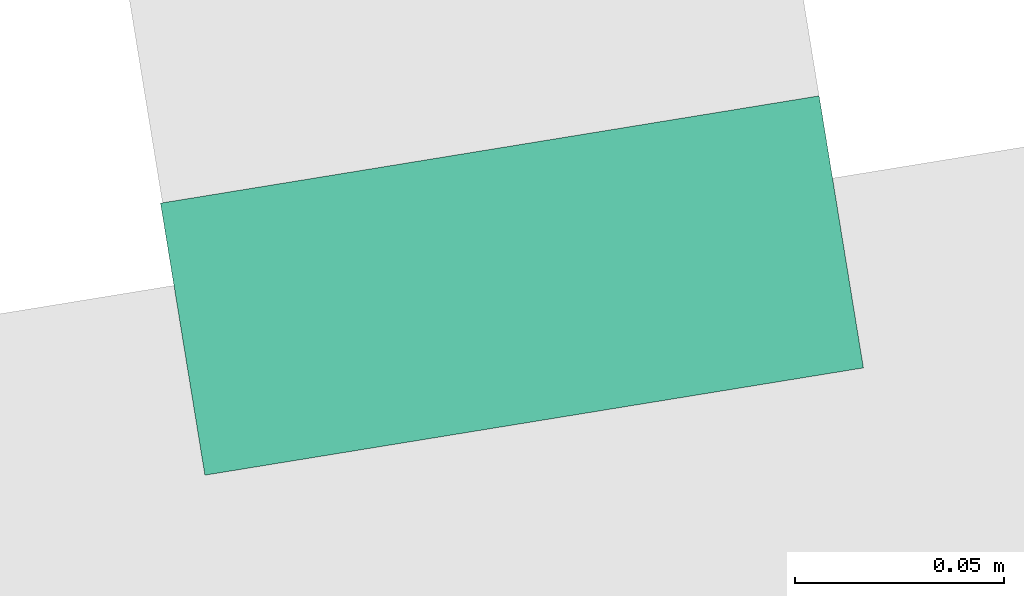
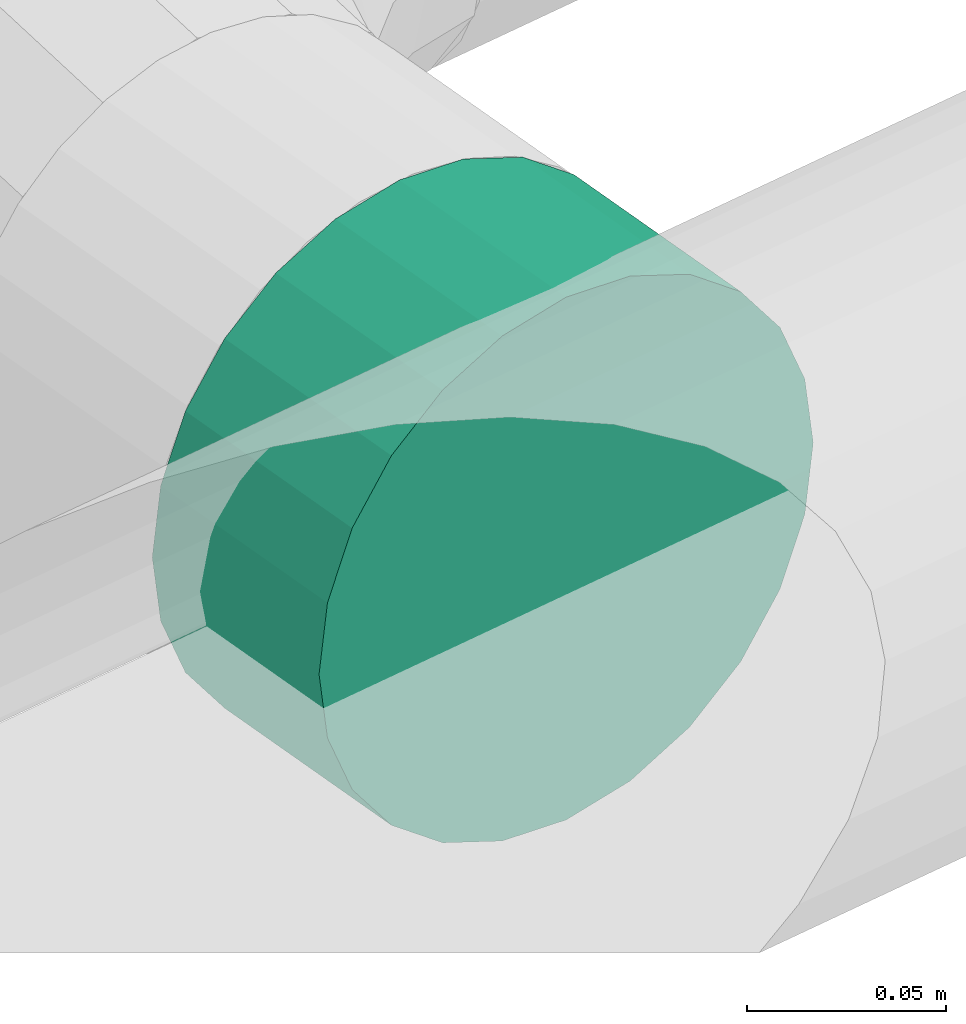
# One storey, part 17 of 19: 1 flow fitting.
"""IFC2X3 building model written with IfcOpenShell, lengths in millimetres."""

import ifcopenshell
import ifcopenshell.guid

model = None  # the IFC model being written
_history = None  # IfcOwnerHistory: only IFC2X3 demands one
_inside = {}  # id of a spatial element -> (the spatial element, [elements in it])
_under = {}  # id of a project, library or spatial element -> (it, [spatial elements below it])
_declared = {}  # id of a project -> (the project, [libraries it declares])
_typed = {}  # id of a type object -> (the type object, [elements of that type])
_made_of = {}  # id of a material, layer set ... -> (it, [elements and type objects made of it])


def new_model(schema):
    """Start an empty IFC model of exactly this schema.

    Asked for "IFC4X3", IfcOpenShell would pick the latest addendum, in which some entities
    have other attributes; the version numbers below select the first issue.
    IFC2X3 requires an IfcOwnerHistory on every rooted entity: one is made here for all.
    """
    global model, _history
    if schema == "IFC4X3":
        model = ifcopenshell.file(schema_version=(4, 3, 0, 0))
    else:
        model = ifcopenshell.file(schema=schema)
    _inside.clear()
    _under.clear()
    _declared.clear()
    _typed.clear()
    _made_of.clear()
    _history = None
    if model.schema == "IFC2X3":
        org = make("IfcOrganization", Name="unknown")
        user = make(
            "IfcPersonAndOrganization",
            ThePerson=make("IfcPerson", FamilyName="unknown"),
            TheOrganization=org,
        )
        app = make(
            "IfcApplication",
            ApplicationDeveloper=org,
            Version="unknown",
            ApplicationFullName="unknown",
            ApplicationIdentifier="unknown",
        )
        _history = make(
            "IfcOwnerHistory",
            OwningUser=user,
            OwningApplication=app,
            ChangeAction="ADDED",
            CreationDate=0,
        )
    return model


def make(cls, **values):
    """One entity of the class cls with the attributes given. An attribute that is None is left unset."""
    return model.create_entity(
        cls, **{name: value for name, value in values.items() if value is not None}
    )


def entity(cls, *values):
    """Any entity or typed value of the class cls, its attributes in the order of the schema. None: left unset."""
    e = model.create_entity(cls)
    for i, value in enumerate(values):
        if value is not None:
            e[i] = value
    return e


def rooted(cls, **values):
    """An entity with a GlobalId (a new one), such as an element, a storey or a relation."""
    return make(cls, GlobalId=ifcopenshell.guid.new(), OwnerHistory=_history, **values)


def si_unit(unit_type, name, prefix=None):
    """IfcSIUnit, for example si_unit("LENGTHUNIT", "METRE", prefix="MILLI")."""
    return make("IfcSIUnit", UnitType=unit_type, Prefix=prefix, Name=name)


def converted_unit(unit_type, name, factor, base, dimensions=None, offset=None):
    """IfcConversionBasedUnit, such as the inch: factor (a typed value) times the base unit."""
    return make(
        "IfcConversionBasedUnit"
        if offset is None
        else "IfcConversionBasedUnitWithOffset",
        ConversionOffset=offset,
        Dimensions=None
        if dimensions is None
        else entity("IfcDimensionalExponents", *dimensions),
        UnitType=unit_type,
        Name=name,
        ConversionFactor=make(
            "IfcMeasureWithUnit", ValueComponent=factor, UnitComponent=base
        ),
    )


def derived_unit(unit_type, elements):
    """IfcDerivedUnit: a product of units, each with its exponent."""
    return make(
        "IfcDerivedUnit",
        Elements=[
            make("IfcDerivedUnitElement", Unit=unit, Exponent=power)
            for unit, power in elements
        ],
        UnitType=unit_type,
    )


def assignment(units):
    """IfcUnitAssignment: the units of a project."""
    return None if units is None else make("IfcUnitAssignment", Units=units)


def point(xyz):
    """IfcCartesianPoint."""
    return None if xyz is None else make("IfcCartesianPoint", Coordinates=xyz)


def direction(xyz):
    """IfcDirection."""
    return None if xyz is None else make("IfcDirection", DirectionRatios=xyz)


def frame(location, z_axis=None, x_axis=None):
    """IfcAxis2Placement3D, a coordinate frame: its origin and axes. An axis left out is left unset."""
    return make(
        "IfcAxis2Placement3D",
        Location=point(location),
        Axis=direction(z_axis),
        RefDirection=direction(x_axis),
    )


def origin():
    """The frame at (0, 0, 0) with its axes left unset."""
    return frame((0.0, 0.0, 0.0))


def origin_with_axes():
    """The frame at (0, 0, 0) with the z axis (0, 0, 1) and the x axis (1, 0, 0) written out."""
    return frame((0.0, 0.0, 0.0), z_axis=(0.0, 0.0, 1.0), x_axis=(1.0, 0.0, 0.0))


def place(relative_to, where):
    """IfcLocalPlacement: puts the frame where relative to a parent placement (None: the world)."""
    return make(
        "IfcLocalPlacement", PlacementRelTo=relative_to, RelativePlacement=where
    )


def context(
    kind, dimensions, precision=None, world=None, true_north=None, identifier=None
):
    """IfcGeometricRepresentationContext, for example the 3D "Model" context."""
    return make(
        "IfcGeometricRepresentationContext",
        ContextIdentifier=identifier,
        ContextType=kind,
        CoordinateSpaceDimension=dimensions,
        Precision=precision,
        WorldCoordinateSystem=world,
        TrueNorth=true_north,
    )


def subcontext(parent, identifier, kind, view, scale=None):
    """IfcGeometricRepresentationSubContext, for example "Body" below "Model"."""
    return make(
        "IfcGeometricRepresentationSubContext",
        ContextIdentifier=identifier,
        ContextType=kind,
        ParentContext=parent,
        TargetScale=scale,
        TargetView=view,
    )


def project(units=None, contexts=None):
    """IfcProject with its units and contexts."""
    return rooted(
        "IfcProject",
        Name="project",
        RepresentationContexts=contexts,
        UnitsInContext=assignment(units),
    )


def spatial(cls, under=None, at=None, **own):
    """A site, building, storey or space (cls), placed at a placement, below another one or the project."""
    s = rooted(cls, ObjectPlacement=at, **own)
    if under is not None:
        _under.setdefault(under.id(), (under, []))[1].append(s)
    return s


def faces_of(points, faces, orient=None, outer=None):
    """IfcFace entities. A face is a list of loops; a loop is a list of indices into points, from 0.

    orient and outer hold one flag for each loop. By default every Orientation is true, the
    first loop of a face is its IfcFaceOuterBound and the others are IfcFaceBound.
    """
    made = []
    for i, loops in enumerate(faces):
        bounds = []
        for j, loop in enumerate(loops):
            is_outer = j == 0 if outer is None else outer[i][j]
            bounds.append(
                make(
                    "IfcFaceOuterBound" if is_outer else "IfcFaceBound",
                    Bound=make("IfcPolyLoop", Polygon=[points[k] for k in loop]),
                    Orientation=True if orient is None else orient[i][j],
                )
            )
        made.append(make("IfcFace", Bounds=bounds))
    return made


def faceted_brep(points, faces, orient=None, outer=None, voids=None):
    """IfcFacetedBrep: a solid bounded by flat faces; with voids (closed shells), ...WithVoids."""
    shared = [point(p) for p in points]
    hull = make("IfcClosedShell", CfsFaces=faces_of(shared, faces, orient, outer))
    if voids is None:
        return make("IfcFacetedBrep", Outer=hull)
    return make(
        "IfcFacetedBrepWithVoids",
        Outer=hull,
        Voids=[
            make(cls, CfsFaces=faces_of(shared, fs, o, b)) for cls, fs, o, b in voids
        ],
    )


def shape(context_of_items, identifier, shape_type, items):
    """IfcShapeRepresentation: the items that make up one representation, for example the "Body"."""
    return make(
        "IfcShapeRepresentation",
        ContextOfItems=context_of_items,
        RepresentationIdentifier=identifier,
        RepresentationType=shape_type,
        Items=items,
    )


def source(mapping_origin, context_of_items, identifier, shape_type, items):
    """IfcRepresentationMap: a shape defined once, which mapped items show again and again."""
    return make(
        "IfcRepresentationMap",
        MappingOrigin=mapping_origin,
        MappedRepresentation=shape(context_of_items, identifier, shape_type, items),
    )


def transform(
    local_origin,
    x_axis=None,
    y_axis=None,
    z_axis=None,
    scale=None,
    scale2=None,
    scale3=None,
    uniform=True,
):
    """IfcCartesianTransformationOperator3D, or its non-uniform kind. x_axis, y_axis, z_axis: its Axis1, 2, 3."""
    if uniform:
        return make(
            "IfcCartesianTransformationOperator3D",
            Axis1=direction(x_axis),
            Axis2=direction(y_axis),
            LocalOrigin=point(local_origin),
            Scale=scale,
            Axis3=direction(z_axis),
        )
    return make(
        "IfcCartesianTransformationOperator3DnonUniform",
        Axis1=direction(x_axis),
        Axis2=direction(y_axis),
        LocalOrigin=point(local_origin),
        Scale=scale,
        Axis3=direction(z_axis),
        Scale2=scale2,
        Scale3=scale3,
    )


def mapped(mapping_source, mapping_target):
    """IfcMappedItem: shows the shape of a source again, moved by a transform."""
    return make(
        "IfcMappedItem", MappingSource=mapping_source, MappingTarget=mapping_target
    )


def material(Name=None, Category=None):
    """IfcMaterial."""
    return make("IfcMaterial", Name=Name, Category=Category)


def made_of(thing, what):
    """Note that an element or type object is made of a material, layer set ...; save() writes the relation."""
    if what is not None:
        _made_of.setdefault(what.id(), (what, []))[1].append(thing)
    return thing


def type_object(cls, material=None, **own):
    """A type object (cls), such as IfcWallType, which elements share."""
    return made_of(rooted(cls, **own), material)


def element(
    cls,
    number,
    at=None,
    inside=None,
    cuts=None,
    type_object=None,
    material=None,
    context=None,
    identifier="Body",
    shape_type=None,
    held_by="IfcProductDefinitionShape",
    body=None,
    shapes=None,
    **own,
):
    """One element of the class cls, such as IfcWall. Its Tag is "e" and its number.

    at: its placement. inside: the storey or other place that contains it. cuts: it is an
    opening in that element (IfcRelVoidsElement). A single representation is given by context,
    identifier, shape_type and body (its items); several are given by shapes. held_by: the class
    of the entity that holds the representations. save() writes the other relations.
    """
    e = rooted(cls, Tag="e%d" % number, ObjectPlacement=at, **own)
    if body is not None:
        shapes = [shape(context, identifier, shape_type, body)]
    if shapes is not None:
        e.Representation = make(held_by, Representations=shapes)
    if inside is not None:
        _inside.setdefault(inside.id(), (inside, []))[1].append(e)
    if cuts is not None:
        rooted(
            "IfcRelVoidsElement", RelatingBuildingElement=cuts, RelatedOpeningElement=e
        )
    if type_object is not None:
        _typed.setdefault(type_object.id(), (type_object, []))[1].append(e)
    return made_of(e, material)


def aggregate(whole, parts):
    """IfcRelAggregates: a whole, such as a stair, and the parts it consists of."""
    return rooted("IfcRelAggregates", RelatingObject=whole, RelatedObjects=parts)


def save(model, path):
    """Write the relations noted so far, then the file.

    IfcRelAggregates (storeys below a building ...), IfcRelContainedInSpatialStructure (elements
    in a storey), IfcRelDefinesByType, IfcRelAssociatesMaterial and IfcRelDeclares: one each for
    every whole, place, type object, material and project.
    """
    for whole, parts in _under.values():
        aggregate(whole, parts)
    for where, things in _inside.values():
        rooted(
            "IfcRelContainedInSpatialStructure",
            RelatedElements=things,
            RelatingStructure=where,
        )
    for kind, things in _typed.values():
        rooted("IfcRelDefinesByType", RelatedObjects=things, RelatingType=kind)
    for what, things in _made_of.values():
        rooted("IfcRelAssociatesMaterial", RelatedObjects=things, RelatingMaterial=what)
    for by, libraries in _declared.values():
        rooted("IfcRelDeclares", RelatingContext=by, RelatedDefinitions=libraries)
    model.write(path)


model = new_model("IFC2X3")

# Units and contexts
model_context = context("Model", 3, precision=0.01, world=origin(), true_north=direction((6.12323399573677e-17, 1.0)))
plan_context = context("Plan", 3, precision=1e-05, world=origin_with_axes())
body_context = subcontext(model_context, "Body", "Model", "MODEL_VIEW")
ifc_project = project(units=[converted_unit("PLANEANGLEUNIT", "DEGREE", entity("IfcPositiveLengthMeasure", 0.0174532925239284), si_unit("PLANEANGLEUNIT", "RADIAN"), dimensions=[0, 0, 0, 0, 0, 0, 0]), si_unit("AREAUNIT", "SQUARE_METRE"), si_unit("LENGTHUNIT", "METRE", prefix="MILLI"), si_unit("MASSUNIT", "GRAM", prefix="KILO"), si_unit("POWERUNIT", "WATT"), si_unit("PRESSUREUNIT", "PASCAL", prefix="KILO"), si_unit("FORCEUNIT", "NEWTON", prefix="KILO"), si_unit("ELECTRICVOLTAGEUNIT", "VOLT"), si_unit("ELECTRICCURRENTUNIT", "AMPERE"), si_unit("THERMODYNAMICTEMPERATUREUNIT", "DEGREE_CELSIUS"), si_unit("TIMEUNIT", "SECOND"), si_unit("VOLUMEUNIT", "CUBIC_METRE"), derived_unit("LINEARVELOCITYUNIT", [(si_unit("LENGTHUNIT", "METRE"), 1), (si_unit("TIMEUNIT", "SECOND"), -1)]), derived_unit("VOLUMETRICFLOWRATEUNIT", [(si_unit("VOLUMEUNIT", "CUBIC_METRE"), 1), (si_unit("TIMEUNIT", "SECOND"), -1)]), derived_unit("THERMALTRANSMITTANCEUNIT", [(si_unit("POWERUNIT", "WATT"), 1), (si_unit("THERMODYNAMICTEMPERATUREUNIT", "KELVIN"), -1), (si_unit("AREAUNIT", "SQUARE_METRE"), -1)]), derived_unit("SOUNDPRESSUREUNIT", [(si_unit("PRESSUREUNIT", "PASCAL"), 1)])], contexts=[model_context, plan_context])

# Site, building, storey
site_placement = place(None, frame((5.09380697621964e-08, 5.80416781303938e-08, 0.0), z_axis=(0.0, 0.0, 1.0), x_axis=(-0.160806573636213, 0.986985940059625, 0.0)))
site = spatial("IfcSite", under=ifc_project, at=site_placement, Name="Default", CompositionType="ELEMENT")
building_placement = place(site_placement, frame((0.0, 0.0, 0.0), z_axis=(0.0, 0.0, 1.0), x_axis=(1.0, -2.77555756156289e-17, 0.0)))
building = spatial("IfcBuilding", under=site, at=building_placement, Name="Bygning (endres i Project Information)", CompositionType="ELEMENT")
storey_placement = place(building_placement, frame((0.0, 0.0, 51360.0000000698), z_axis=(0.0, 0.0, 1.0), x_axis=(1.0, -2.77555756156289e-17, 0.0)))
storey = spatial("IfcBuildingStorey", under=building, at=storey_placement, Name="H01-Nivå D+0,36", CompositionType="ELEMENT", Elevation=51360.0000000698)

# Flow fitting
ifc_material = material(Name="3601.001 Avtrekk")
duct_fitting_type = type_object("IfcDuctFittingType", Name="magicirc_tapoutlet_001:magicirc_tapoutlet_001", PredefinedType="NOTDEFINED", material=ifc_material)
shared_shape = source(origin(), body_context, "Body", "Brep", [
    faceted_brep([(-46.0960000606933, 0.0, -80.0000001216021), (-46.0960000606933, -20.7055236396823, -77.2740662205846), (-46.0960000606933, -40.0000000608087, -69.2820324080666), (-46.0960000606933, -56.5685425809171, -56.568542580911), (-46.0960000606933, -69.2820324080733, -40.0000000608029), (-46.0960000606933, -77.2740662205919, -20.7055236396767), (-46.0960000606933, -80.0000001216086, 0.0), (-46.0960000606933, -77.2740662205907, 20.7055236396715), (-46.0960000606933, -69.2820324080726, 40.0000000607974), (-46.0960000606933, -56.5685425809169, 56.5685425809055), (-46.0960000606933, -40.000000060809, 69.2820324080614), (-46.0960000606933, -20.7055236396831, 77.2740662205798), (-46.0960000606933, 0.0, 80.0000001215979), (-46.0960000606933, 20.705523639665, 77.27406622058), (-46.0960000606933, 40.0000000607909, 69.2820324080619), (-46.0960000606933, 56.5685425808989, 56.5685425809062), (-46.0960000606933, 69.2820324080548, 40.0000000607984), (-46.0960000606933, 77.2740662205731, 20.7055236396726), (-46.0960000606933, 80.0000001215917, 0.0), (-46.0960000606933, 77.2740662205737, -20.7055236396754), (-46.0960000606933, 69.2820324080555, -40.0000000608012), (-46.0960000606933, 56.5685425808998, -56.5685425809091), (-46.0960000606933, 40.0000000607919, -69.2820324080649), (-46.0960000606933, 20.705523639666, -77.2740662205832), (0.0, 0.0, 80.0000001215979), (20.0, 0.0, 80.0000001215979), (20.0, 20.705523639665, 77.27406622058), (0.0, 20.7055236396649, 77.2740662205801), (20.0, 40.0000000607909, 69.2820324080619), (0.0, 40.0000000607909, 69.2820324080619), (20.0, 56.5685425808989, 56.5685425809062), (0.0, 56.5685425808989, 56.5685425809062), (0.0, 69.2820324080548, 40.0000000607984), (20.0, 69.2820324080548, 40.0000000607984), (20.0, 77.2740662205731, 20.7055236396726), (0.0, 77.2740662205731, 20.7055236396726), (20.0, 80.0000001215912, 0.0), (0.0, 80.0000001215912, 0.0), (20.0, 77.2740662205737, -20.7055236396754), (0.0, 77.2740662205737, -20.7055236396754), (20.0, 69.2820324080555, -40.0000000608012), (0.0, 69.2820324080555, -40.0000000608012), (20.0, 56.5685425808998, -56.5685425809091), (0.0, 56.5685425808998, -56.5685425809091), (0.0, 40.0000000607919, -69.2820324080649), (20.0, 40.0000000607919, -69.2820324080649), (20.0, 20.705523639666, -77.2740662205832), (0.0, 20.705523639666, -77.2740662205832), (20.0, 0.0, -80.0000001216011), (0.0, 0.0, -80.0000001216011), (20.0, -20.7055236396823, -77.2740662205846), (0.0, -20.7055236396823, -77.2740662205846), (20.0, -40.0000000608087, -69.2820324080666), (0.0, -40.0000000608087, -69.2820324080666), (20.0, -56.5685425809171, -56.568542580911), (0.0, -56.5685425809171, -56.568542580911), (0.0, -77.2740662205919, -20.7055236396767), (20.0, -77.2740662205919, -20.7055236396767), (20.0, -80.00000012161, 0.0), (0.0, -80.00000012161, 0.0), (0.0, -69.2820324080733, -40.0000000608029), (20.0, -69.2820324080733, -40.0000000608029), (20.0, -77.2740662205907, 20.7055236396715), (0.0, -77.2740662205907, 20.7055236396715), (20.0, -69.2820324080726, 40.0000000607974), (0.0, -69.2820324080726, 40.0000000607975), (20.0, -56.5685425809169, 56.5685425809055), (0.0, -56.5685425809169, 56.5685425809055), (0.0, -20.7055236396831, 77.2740662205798), (20.0, -20.7055236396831, 77.2740662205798), (0.0, -40.000000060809, 69.2820324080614), (20.0, -40.000000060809, 69.2820324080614)], [[[0, 1, 2, 3, 4, 5, 6, 7, 8, 9, 10, 11, 12, 13, 14, 15, 16, 17, 18, 19, 20, 21, 22, 23]], [[12, 24, 25, 26, 27, 13]], [[13, 27, 26, 28, 29, 14]], [[14, 29, 28, 30, 31, 15]], [[16, 32, 33, 34, 35, 17]], [[17, 35, 34, 36, 37, 18]], [[15, 31, 30, 33, 32, 16]], [[18, 37, 36, 38, 39, 19]], [[19, 39, 38, 40, 41, 20]], [[20, 41, 40, 42, 43, 21]], [[23, 22, 44, 45, 46, 47]], [[0, 23, 47, 46, 48, 49]], [[21, 43, 42, 45, 44, 22]], [[0, 49, 48, 50, 51, 1]], [[1, 51, 50, 52, 53, 2]], [[2, 53, 52, 54, 55, 3]], [[56, 57, 58, 59, 6, 5]], [[60, 61, 57, 56, 5, 4]], [[4, 3, 55, 54, 61, 60]], [[6, 59, 58, 62, 63, 7]], [[7, 63, 62, 64, 65, 8]], [[8, 65, 64, 66, 67, 9]], [[68, 69, 25, 24, 12, 11]], [[70, 71, 69, 68, 11, 10]], [[9, 67, 66, 71, 70, 10]], [[36, 34, 33, 30, 28, 26, 25, 69, 71, 66, 64, 62, 58, 57, 61, 54, 52, 50, 48, 46, 45, 42, 40, 38]]]),
    faceted_brep([(20.0, 80.0000001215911, 0.0), (20.0, 77.274066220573, 20.7055236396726), (20.0, 69.2820324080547, 40.0000000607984), (20.0, 56.5685425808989, 56.5685425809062), (20.0, 40.0000000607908, 69.2820324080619), (20.0, 20.7055236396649, 77.27406622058), (20.0, 0.0, 80.0000001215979), (20.0, -20.7055236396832, 77.2740662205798), (20.0, -40.0000000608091, 69.2820324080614), (20.0, -56.568542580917, 56.5685425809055), (20.0, -69.2820324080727, 40.0000000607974), (20.0, -77.2740662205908, 20.7055236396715), (20.0, -80.0000001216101, 0.0), (20.0, -77.274066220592, -20.7055236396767), (20.0, -69.2820324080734, -40.0000000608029), (20.0, -56.5685425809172, -56.568542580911), (20.0, -40.0000000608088, -69.2820324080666), (20.0, -20.7055236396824, -77.2740662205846), (20.0, 0.0, -80.0000001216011), (20.0, 20.705523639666, -77.2740662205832), (20.0, 40.0000000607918, -69.2820324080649), (20.0, 56.5685425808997, -56.5685425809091), (20.0, 69.2820324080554, -40.0000000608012), (20.0, 77.2740662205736, -20.7055236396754), (0.0, 0.0, 80.0000001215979), (0.0, 20.705523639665, 77.27406622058), (-46.0960000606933, 20.7055236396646, 77.27406622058), (-46.0960000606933, 0.0, 80.0000001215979), (0.0, 40.0000000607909, 69.2820324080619), (-46.0960000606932, 40.0000000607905, 69.2820324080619), (0.0, 56.5685425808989, 56.5685425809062), (-46.0960000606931, 56.5685425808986, 56.5685425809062), (0.0, 69.2820324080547, 40.0000000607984), (0.0, 77.2740662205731, 20.7055236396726), (-46.0960000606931, 77.2740662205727, 20.7055236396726), (-46.0960000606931, 69.2820324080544, 40.0000000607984), (0.0, 80.0000001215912, 0.0), (-46.0960000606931, 80.0000001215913, 0.0), (0.0, 77.2740662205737, -20.7055236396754), (-46.0960000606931, 77.2740662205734, -20.7055236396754), (0.0, 69.2820324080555, -40.0000000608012), (-46.0960000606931, 69.2820324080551, -40.0000000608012), (0.0, 56.5685425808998, -56.5685425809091), (-46.0960000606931, 56.5685425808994, -56.5685425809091), (0.0, 0.0, -80.0000001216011), (-46.0960000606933, 0.0, -80.0000001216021), (-46.0960000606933, 20.7055236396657, -77.2740662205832), (0.0, 20.705523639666, -77.2740662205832), (-46.0960000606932, 40.0000000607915, -69.2820324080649), (0.0, 40.0000000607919, -69.2820324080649), (0.0, -20.7055236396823, -77.2740662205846), (-46.0960000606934, -20.7055236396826, -77.2740662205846), (0.0, -40.0000000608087, -69.2820324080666), (-46.0960000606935, -40.000000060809, -69.2820324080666), (0.0, -56.5685425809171, -56.568542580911), (-46.0960000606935, -56.5685425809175, -56.568542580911), (0.0, -69.2820324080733, -40.0000000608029), (0.0, -77.2740662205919, -20.7055236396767), (-46.0960000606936, -77.2740662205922, -20.7055236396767), (-46.0960000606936, -69.2820324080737, -40.0000000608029), (0.0, -80.00000012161, 0.0), (-46.0960000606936, -80.0000001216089, 0.0), (0.0, -77.2740662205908, 20.7055236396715), (-46.0960000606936, -77.2740662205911, 20.7055236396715), (0.0, -69.2820324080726, 40.0000000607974), (-46.0960000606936, -69.282032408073, 40.0000000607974), (0.0, -56.5685425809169, 56.5685425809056), (-46.0960000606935, -56.5685425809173, 56.5685425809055), (0.0, -40.000000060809, 69.2820324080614), (0.0, -20.7055236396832, 77.2740662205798), (-46.0960000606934, -20.7055236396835, 77.2740662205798), (-46.0960000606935, -40.0000000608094, 69.2820324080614)], [[[0, 1, 2, 3, 4, 5, 6, 7, 8, 9, 10, 11, 12, 13, 14, 15, 16, 17, 18, 19, 20, 21, 22, 23]], [[24, 6, 5, 25, 26, 27]], [[25, 5, 4, 28, 29, 26]], [[28, 4, 3, 30, 31, 29]], [[32, 2, 1, 33, 34, 35]], [[33, 1, 0, 36, 37, 34]], [[30, 3, 2, 32, 35, 31]], [[36, 0, 23, 38, 39, 37]], [[38, 23, 22, 40, 41, 39]], [[40, 22, 21, 42, 43, 41]], [[19, 18, 44, 45, 46, 47]], [[20, 19, 47, 46, 48, 49]], [[42, 21, 20, 49, 48, 43]], [[44, 18, 17, 50, 51, 45]], [[50, 17, 16, 52, 53, 51]], [[52, 16, 15, 54, 55, 53]], [[56, 14, 13, 57, 58, 59]], [[57, 13, 12, 60, 61, 58]], [[54, 15, 14, 56, 59, 55]], [[60, 12, 11, 62, 63, 61]], [[62, 11, 10, 64, 65, 63]], [[64, 10, 9, 66, 67, 65]], [[68, 8, 7, 69, 70, 71]], [[69, 7, 6, 24, 27, 70]], [[66, 9, 8, 68, 71, 67]], [[45, 51, 53, 55, 59, 58, 61, 63, 65, 67, 71, 70, 27, 26, 29, 31, 35, 34, 37, 39, 41, 43, 48, 46]]]),
    faceted_brep([(-46.0960000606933, 0.0, -80.0000001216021), (-46.0960000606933, -20.7055236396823, -77.2740662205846), (-46.0960000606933, -40.0000000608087, -69.2820324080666), (-46.0960000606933, -56.5685425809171, -56.568542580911), (-46.0960000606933, -69.2820324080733, -40.0000000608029), (-46.0960000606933, -77.2740662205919, -20.7055236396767), (-46.0960000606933, -80.0000001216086, 0.0), (-46.0960000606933, -77.2740662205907, 20.7055236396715), (-46.0960000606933, -69.2820324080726, 40.0000000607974), (-46.0960000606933, -56.5685425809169, 56.5685425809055), (-46.0960000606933, -40.000000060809, 69.2820324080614), (-46.0960000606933, -20.7055236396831, 77.2740662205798), (-46.0960000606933, 0.0, 80.0000001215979), (-46.0960000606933, 20.705523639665, 77.27406622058), (-46.0960000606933, 40.0000000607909, 69.2820324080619), (-46.0960000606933, 56.5685425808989, 56.5685425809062), (-46.0960000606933, 69.2820324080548, 40.0000000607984), (-46.0960000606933, 77.2740662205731, 20.7055236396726), (-46.0960000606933, 80.0000001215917, 0.0), (-46.0960000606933, 77.2740662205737, -20.7055236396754), (-46.0960000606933, 69.2820324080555, -40.0000000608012), (-46.0960000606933, 56.5685425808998, -56.5685425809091), (-46.0960000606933, 40.0000000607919, -69.2820324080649), (-46.0960000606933, 20.705523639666, -77.2740662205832), (0.0, 0.0, 80.0000001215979), (20.0, 0.0, 80.0000001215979), (20.0, 20.705523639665, 77.27406622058), (0.0, 20.7055236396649, 77.2740662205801), (20.0, 40.0000000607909, 69.2820324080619), (0.0, 40.0000000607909, 69.2820324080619), (20.0, 56.5685425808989, 56.5685425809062), (0.0, 56.5685425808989, 56.5685425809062), (0.0, 69.2820324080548, 40.0000000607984), (20.0, 69.2820324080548, 40.0000000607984), (20.0, 77.2740662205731, 20.7055236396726), (0.0, 77.2740662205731, 20.7055236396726), (20.0, 80.0000001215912, 0.0), (0.0, 80.0000001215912, 0.0), (20.0, 77.2740662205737, -20.7055236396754), (0.0, 77.2740662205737, -20.7055236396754), (20.0, 69.2820324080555, -40.0000000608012), (0.0, 69.2820324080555, -40.0000000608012), (20.0, 56.5685425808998, -56.5685425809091), (0.0, 56.5685425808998, -56.5685425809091), (0.0, 40.0000000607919, -69.2820324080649), (20.0, 40.0000000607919, -69.2820324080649), (20.0, 20.705523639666, -77.2740662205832), (0.0, 20.705523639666, -77.2740662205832), (20.0, 0.0, -80.0000001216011), (0.0, 0.0, -80.0000001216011), (20.0, -20.7055236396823, -77.2740662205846), (0.0, -20.7055236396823, -77.2740662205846), (20.0, -40.0000000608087, -69.2820324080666), (0.0, -40.0000000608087, -69.2820324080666), (20.0, -56.5685425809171, -56.568542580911), (0.0, -56.5685425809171, -56.568542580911), (0.0, -77.2740662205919, -20.7055236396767), (20.0, -77.2740662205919, -20.7055236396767), (20.0, -80.00000012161, 0.0), (0.0, -80.00000012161, 0.0), (0.0, -69.2820324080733, -40.0000000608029), (20.0, -69.2820324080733, -40.0000000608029), (20.0, -77.2740662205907, 20.7055236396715), (0.0, -77.2740662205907, 20.7055236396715), (20.0, -69.2820324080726, 40.0000000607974), (0.0, -69.2820324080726, 40.0000000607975), (20.0, -56.5685425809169, 56.5685425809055), (0.0, -56.5685425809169, 56.5685425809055), (0.0, -20.7055236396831, 77.2740662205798), (20.0, -20.7055236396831, 77.2740662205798), (0.0, -40.000000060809, 69.2820324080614), (20.0, -40.000000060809, 69.2820324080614)], [[[0, 1, 2, 3, 4, 5, 6, 7, 8, 9, 10, 11, 12, 13, 14, 15, 16, 17, 18, 19, 20, 21, 22, 23]], [[12, 24, 25, 26, 27, 13]], [[13, 27, 26, 28, 29, 14]], [[14, 29, 28, 30, 31, 15]], [[16, 32, 33, 34, 35, 17]], [[17, 35, 34, 36, 37, 18]], [[15, 31, 30, 33, 32, 16]], [[18, 37, 36, 38, 39, 19]], [[19, 39, 38, 40, 41, 20]], [[20, 41, 40, 42, 43, 21]], [[23, 22, 44, 45, 46, 47]], [[0, 23, 47, 46, 48, 49]], [[21, 43, 42, 45, 44, 22]], [[0, 49, 48, 50, 51, 1]], [[1, 51, 50, 52, 53, 2]], [[2, 53, 52, 54, 55, 3]], [[56, 57, 58, 59, 6, 5]], [[60, 61, 57, 56, 5, 4]], [[4, 3, 55, 54, 61, 60]], [[6, 59, 58, 62, 63, 7]], [[7, 63, 62, 64, 65, 8]], [[8, 65, 64, 66, 67, 9]], [[68, 69, 25, 24, 12, 11]], [[70, 71, 69, 68, 11, 10]], [[9, 67, 66, 71, 70, 10]], [[36, 34, 33, 30, 28, 26, 25, 69, 71, 66, 64, 62, 58, 57, 61, 54, 52, 50, 48, 46, 45, 42, 40, 38]]]),
])
flow_fitting_placement = place(storey_placement, frame((1008818.36764309, -386287.343203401, 3150.0), z_axis=(0.0, 0.0, -1.0), x_axis=(1.0, -2.77555756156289e-17, 0.0)))
element("IfcFlowFitting", 1, at=flow_fitting_placement, inside=storey, type_object=duct_fitting_type, material=ifc_material, Name="magicirc_tapoutlet_001:magicirc_tapoutlet_001", ObjectType="magicirc_tapoutlet_001:magicirc_tapoutlet_001", context=body_context, shape_type="MappedRepresentation", body=[
    mapped(shared_shape, transform((0.0, 0.0, 0.0), scale=1.0)),
])

save(model, "model.ifc")
